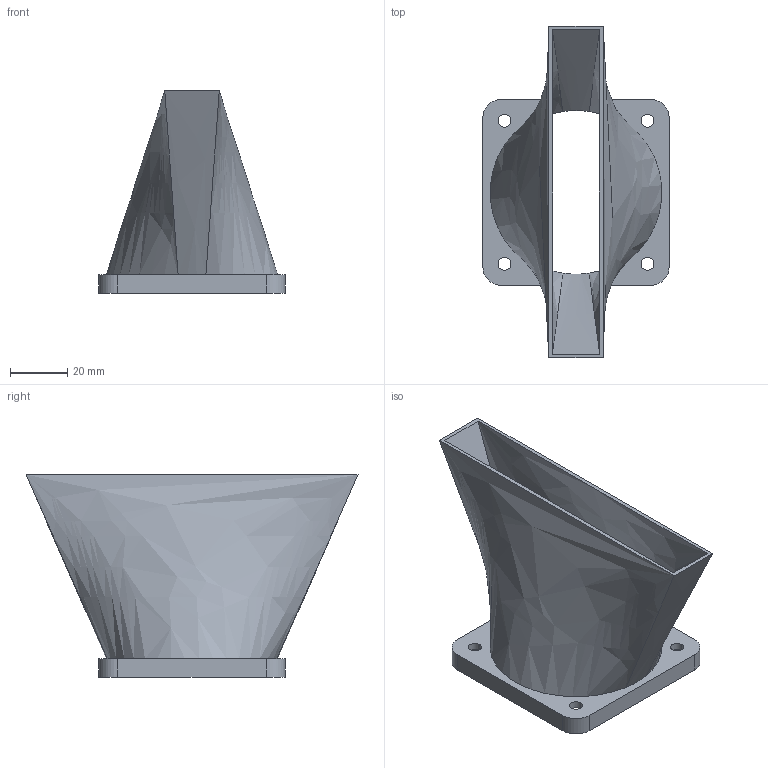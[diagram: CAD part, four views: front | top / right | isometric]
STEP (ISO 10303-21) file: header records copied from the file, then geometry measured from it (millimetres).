
FILE_DESCRIPTION (( 'STEP AP203' ), '1' );
FILE_NAME ('Type_B_Air_Duct.STEP', '2026-07-26T16:04:02', ( '' ), ( '' ), 'SwSTEP 2.0', 'SolidWorks 2024', '' );
FILE_SCHEMA (( 'CONFIG_CONTROL_DESIGN' ));
Length unit declared in the file: inch
Products named in the file (1): Type_B_Air_Duct
Bounding box: 65.08 x 115.99 x 70.79 mm (x, y, z)
Volume: 23997 mm3; surface area: 34702.8 mm2
Topology: 1 solids, 1 shells, 40 faces, 126 edges, 90 vertices
Faces by surface type: cylinder 16, plane 12, bspline 12
Entity records: 5397 total; most frequent: CARTESIAN_POINT 4237, ORIENTED_EDGE 252, DIRECTION 182, EDGE_CURVE 126, VERTEX_POINT 90, AXIS2_PLACEMENT_3D 65, LINE 52, EDGE_LOOP 52
